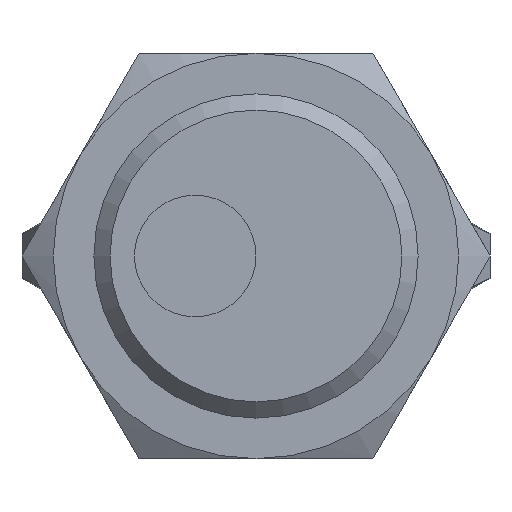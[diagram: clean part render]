
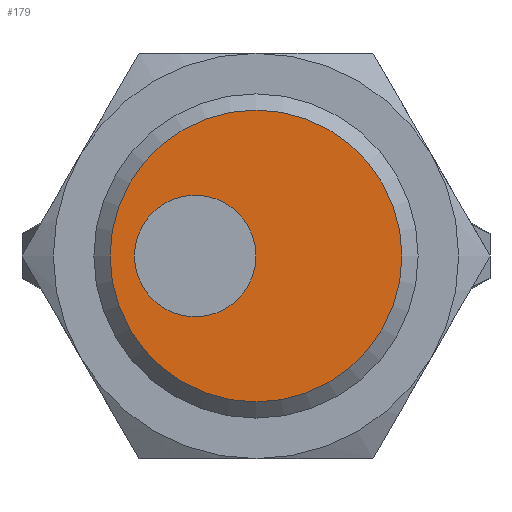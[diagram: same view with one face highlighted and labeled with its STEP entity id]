
A CAD part, left-side view. The second image highlights one B-rep face of the part: STEP entity #179.
In plain terms, the highlighted planar face has unit normal (-1, 0, 0).
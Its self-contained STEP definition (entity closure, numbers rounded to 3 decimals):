
#179 = ADVANCED_FACE( '', ( #211, #212 ), #213, .T. );
#211 = FACE_OUTER_BOUND( '', #284, .T. );
#212 = FACE_BOUND( '', #285, .T. );
#213 = PLANE( '', #286 );
#284 = EDGE_LOOP( '', ( #357 ) );
#285 = EDGE_LOOP( '', ( #358 ) );
#286 = AXIS2_PLACEMENT_3D( '', #359, #360, #361 );
#357 = ORIENTED_EDGE( '', *, *, #556, .T. );
#358 = ORIENTED_EDGE( '', *, *, #557, .T. );
#359 = CARTESIAN_POINT( '', ( -20., 0., 0. ) );
#360 = DIRECTION( '', ( -1., 0., 0. ) );
#361 = DIRECTION( '', ( 0., 0., 1. ) );
#556 = EDGE_CURVE( '', #609, #609, #610, .T. );
#557 = EDGE_CURVE( '', #611, #611, #612, .F. );
#609 = VERTEX_POINT( '', #697 );
#610 = CIRCLE( '', #698, 3.6 );
#611 = VERTEX_POINT( '', #699 );
#612 = CIRCLE( '', #700, 1.5 );
#697 = CARTESIAN_POINT( '', ( -20., 0., 3.6 ) );
#698 = AXIS2_PLACEMENT_3D( '', #911, #912, #913 );
#699 = CARTESIAN_POINT( '', ( -20., 1.5, 1.5 ) );
#700 = AXIS2_PLACEMENT_3D( '', #914, #915, #916 );
#911 = CARTESIAN_POINT( '', ( -20., 0., 0. ) );
#912 = DIRECTION( '', ( -1., 0., 0. ) );
#913 = DIRECTION( '', ( 0., 0., 1. ) );
#914 = CARTESIAN_POINT( '', ( -20., 1.5, 0. ) );
#915 = DIRECTION( '', ( -1., 0., 0. ) );
#916 = DIRECTION( '', ( 0., 0., 1. ) );
